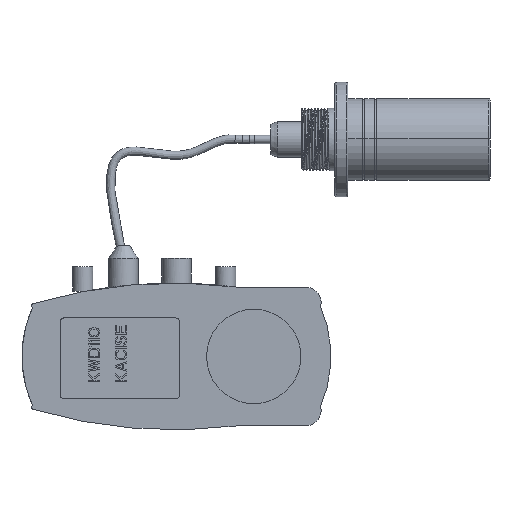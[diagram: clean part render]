
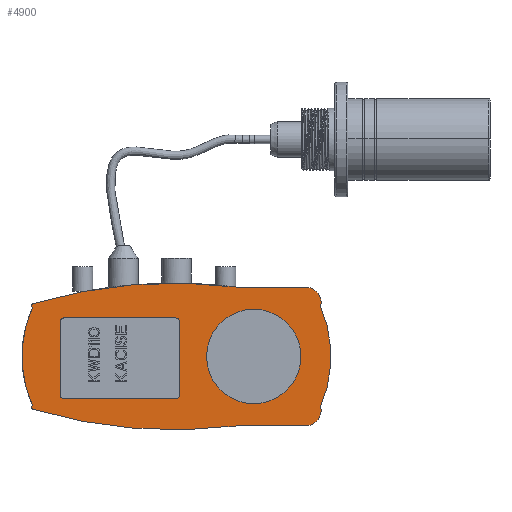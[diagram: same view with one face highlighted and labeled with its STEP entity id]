
A CAD part, left-side view. The second image highlights one B-rep face of the part: STEP entity #4900.
In plain terms, the highlighted planar face has unit normal (-1, 0, 0).
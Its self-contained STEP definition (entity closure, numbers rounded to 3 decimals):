
#1=CARTESIAN_POINT('',(0.,-0.721,0.));
#2=DIRECTION('',(1.,0.,0.));
#3=DIRECTION('',(0.,0.913,-0.407));
#4=AXIS2_PLACEMENT_3D('',#1,#2,#3);
#6=CARTESIAN_POINT('',(0.,65.897,31.112));
#7=DIRECTION('',(1.,0.,0.));
#8=DIRECTION('',(0.,0.571,-0.821));
#9=AXIS2_PLACEMENT_3D('',#6,#7,#8);
#11=CARTESIAN_POINT('',(0.,-20.032,-257.545));
#12=DIRECTION('',(1.,0.,0.));
#13=DIRECTION('',(0.,0.287,0.958));
#14=AXIS2_PLACEMENT_3D('',#11,#12,#13);
#16=DIRECTION('',(0.,-1.,0.));
#17=VECTOR('',#16,41.705);
#18=CARTESIAN_POINT('',(0.,-58.52,42.432));
#19=LINE('',#18,#17);
#20=CARTESIAN_POINT('',(0.,-100.224,32.618));
#21=DIRECTION('',(1.,0.,0.));
#22=DIRECTION('',(0.,0.,1.));
#23=AXIS2_PLACEMENT_3D('',#20,#21,#22);
#25=CARTESIAN_POINT('',(0.,-102.166,33.278));
#26=DIRECTION('',(1.,0.,0.));
#27=DIRECTION('',(0.,-0.947,0.322));
#28=AXIS2_PLACEMENT_3D('',#25,#26,#27);
#30=CARTESIAN_POINT('',(0.,-38.008,0.));
#31=DIRECTION('',(1.,0.,0.));
#32=DIRECTION('',(0.,-0.919,0.395));
#33=AXIS2_PLACEMENT_3D('',#30,#31,#32);
#35=CARTESIAN_POINT('',(0.,-102.166,-33.278));
#36=DIRECTION('',(1.,0.,0.));
#37=DIRECTION('',(0.,-0.947,0.322));
#38=AXIS2_PLACEMENT_3D('',#35,#36,#37);
#40=CARTESIAN_POINT('',(0.,-100.224,-32.618));
#41=DIRECTION('',(1.,0.,0.));
#42=DIRECTION('',(0.,-0.947,-0.322));
#43=AXIS2_PLACEMENT_3D('',#40,#41,#42);
#45=DIRECTION('',(0.,1.,0.));
#46=VECTOR('',#45,41.705);
#47=CARTESIAN_POINT('',(0.,-100.224,-42.432));
#48=LINE('',#47,#46);
#49=CARTESIAN_POINT('',(0.,-20.032,257.545));
#50=DIRECTION('',(1.,0.,0.));
#51=DIRECTION('',(0.,-0.127,-0.992));
#52=AXIS2_PLACEMENT_3D('',#49,#50,#51);
#54=CARTESIAN_POINT('',(0.,65.897,-31.112));
#55=DIRECTION('',(1.,0.,0.));
#56=DIRECTION('',(0.,0.571,-0.821));
#57=AXIS2_PLACEMENT_3D('',#54,#55,#56);
#59=CARTESIAN_POINT('',(0.,-68.716,0.));
#60=DIRECTION('',(-1.,0.,0.));
#61=DIRECTION('',(0.,0.,1.));
#62=AXIS2_PLACEMENT_3D('',#59,#60,#61);
#64=CARTESIAN_POINT('',(0.,-68.716,0.));
#65=DIRECTION('',(-1.,0.,0.));
#66=DIRECTION('',(0.,0.,-1.));
#67=AXIS2_PLACEMENT_3D('',#64,#65,#66);
#69=CARTESIAN_POINT('',(0.,47.47,-23.8));
#70=DIRECTION('',(-1.,0.,0.));
#71=DIRECTION('',(0.,1.,0.));
#72=AXIS2_PLACEMENT_3D('',#69,#70,#71);
#74=DIRECTION('',(0.,-1.,0.));
#75=VECTOR('',#74,68.591);
#76=CARTESIAN_POINT('',(0.,47.47,-25.8));
#77=LINE('',#76,#75);
#78=CARTESIAN_POINT('',(0.,-21.121,-23.8));
#79=DIRECTION('',(-1.,0.,0.));
#80=DIRECTION('',(0.,0.,-1.));
#81=AXIS2_PLACEMENT_3D('',#78,#79,#80);
#83=DIRECTION('',(0.,0.,1.));
#84=VECTOR('',#83,45.337);
#85=CARTESIAN_POINT('',(0.,-23.121,-23.8));
#86=LINE('',#85,#84);
#87=CARTESIAN_POINT('',(0.,-21.121,21.537));
#88=DIRECTION('',(-1.,0.,0.));
#89=DIRECTION('',(0.,-1.,0.));
#90=AXIS2_PLACEMENT_3D('',#87,#88,#89);
#92=DIRECTION('',(0.,1.,0.));
#93=VECTOR('',#92,68.591);
#94=CARTESIAN_POINT('',(0.,-21.121,23.537));
#95=LINE('',#94,#93);
#96=CARTESIAN_POINT('',(0.,47.47,21.537));
#97=DIRECTION('',(-1.,0.,0.));
#98=DIRECTION('',(0.,0.,1.));
#99=AXIS2_PLACEMENT_3D('',#96,#97,#98);
#101=DIRECTION('',(0.,0.,-1.));
#102=VECTOR('',#101,45.337);
#103=CARTESIAN_POINT('',(0.,49.47,21.537));
#104=LINE('',#103,#102);
#3734=CARTESIAN_POINT('',(0.,-58.52,-42.432));
#3735=CARTESIAN_POINT('',(0.,66.655,-32.201));
#3736=VERTEX_POINT('',#3734);
#3737=VERTEX_POINT('',#3735);
#3738=CARTESIAN_POINT('',(0.,66.655,32.201));
#3739=CARTESIAN_POINT('',(0.,-58.52,42.432));
#3740=VERTEX_POINT('',#3738);
#3741=VERTEX_POINT('',#3739);
#3742=CARTESIAN_POINT('',(0.,-100.224,42.432));
#3743=VERTEX_POINT('',#3742);
#3744=CARTESIAN_POINT('',(0.,-109.516,35.776));
#3745=VERTEX_POINT('',#3744);
#3746=CARTESIAN_POINT('',(0.,-109.516,30.78));
#3747=VERTEX_POINT('',#3746);
#3748=CARTESIAN_POINT('',(0.,-109.516,-30.78));
#3749=VERTEX_POINT('',#3748);
#3750=CARTESIAN_POINT('',(0.,-109.516,-35.776));
#3751=VERTEX_POINT('',#3750);
#3752=CARTESIAN_POINT('',(0.,-100.224,-42.432));
#3753=VERTEX_POINT('',#3752);
#3780=CARTESIAN_POINT('',(0.,66.655,-30.024));
#3782=VERTEX_POINT('',#3780);
#3788=CARTESIAN_POINT('',(0.,66.655,30.024));
#3789=VERTEX_POINT('',#3788);
#3810=CARTESIAN_POINT('',(0.,-68.716,28.869));
#3811=CARTESIAN_POINT('',(0.,-68.716,-28.869));
#3812=VERTEX_POINT('',#3810);
#3813=VERTEX_POINT('',#3811);
#3814=CARTESIAN_POINT('',(0.,49.47,-23.8));
#3815=CARTESIAN_POINT('',(0.,47.47,-25.8));
#3816=VERTEX_POINT('',#3814);
#3817=VERTEX_POINT('',#3815);
#3818=CARTESIAN_POINT('',(0.,-21.121,-25.8));
#3819=VERTEX_POINT('',#3818);
#3820=CARTESIAN_POINT('',(0.,-23.121,-23.8));
#3821=VERTEX_POINT('',#3820);
#3822=CARTESIAN_POINT('',(0.,-23.121,21.537));
#3823=VERTEX_POINT('',#3822);
#3824=CARTESIAN_POINT('',(0.,-21.121,23.537));
#3825=VERTEX_POINT('',#3824);
#3826=CARTESIAN_POINT('',(0.,47.47,23.537));
#3827=VERTEX_POINT('',#3826);
#3828=CARTESIAN_POINT('',(0.,49.47,21.537));
#3829=VERTEX_POINT('',#3828);
#4845=CARTESIAN_POINT('',(0.,0.,0.));
#4846=DIRECTION('',(1.,0.,0.));
#4847=DIRECTION('',(0.,0.,-1.));
#4848=AXIS2_PLACEMENT_3D('',#4845,#4846,#4847);
#4849=PLANE('',#4848);
#4851=ORIENTED_EDGE('',*,*,#4850,.T.);
#4853=ORIENTED_EDGE('',*,*,#4852,.T.);
#4855=ORIENTED_EDGE('',*,*,#4854,.T.);
#4857=ORIENTED_EDGE('',*,*,#4856,.T.);
#4859=ORIENTED_EDGE('',*,*,#4858,.T.);
#4861=ORIENTED_EDGE('',*,*,#4860,.T.);
#4863=ORIENTED_EDGE('',*,*,#4862,.T.);
#4865=ORIENTED_EDGE('',*,*,#4864,.T.);
#4867=ORIENTED_EDGE('',*,*,#4866,.T.);
#4869=ORIENTED_EDGE('',*,*,#4868,.T.);
#4871=ORIENTED_EDGE('',*,*,#4870,.T.);
#4873=ORIENTED_EDGE('',*,*,#4872,.T.);
#4874=EDGE_LOOP('',(#4851,#4853,#4855,#4857,#4859,#4861,#4863,#4865,#4867,#4869,
#4871,#4873));
#4875=FACE_OUTER_BOUND('',#4874,.F.);
#4877=ORIENTED_EDGE('',*,*,#4876,.T.);
#4879=ORIENTED_EDGE('',*,*,#4878,.T.);
#4880=EDGE_LOOP('',(#4877,#4879));
#4881=FACE_BOUND('',#4880,.F.);
#4883=ORIENTED_EDGE('',*,*,#4882,.T.);
#4885=ORIENTED_EDGE('',*,*,#4884,.T.);
#4887=ORIENTED_EDGE('',*,*,#4886,.T.);
#4889=ORIENTED_EDGE('',*,*,#4888,.T.);
#4891=ORIENTED_EDGE('',*,*,#4890,.T.);
#4893=ORIENTED_EDGE('',*,*,#4892,.T.);
#4895=ORIENTED_EDGE('',*,*,#4894,.T.);
#4897=ORIENTED_EDGE('',*,*,#4896,.T.);
#4898=EDGE_LOOP('',(#4883,#4885,#4887,#4889,#4891,#4893,#4895,#4897));
#4899=FACE_BOUND('',#4898,.F.);
#4900=ADVANCED_FACE('',(#4875,#4881,#4899),#4849,.F.);
#5=CIRCLE('',#4,73.763);
#10=CIRCLE('',#9,1.326);
#15=CIRCLE('',#14,302.436);
#24=CIRCLE('',#23,9.814);
#29=CIRCLE('',#28,7.763);
#34=CIRCLE('',#33,77.851);
#39=CIRCLE('',#38,7.763);
#44=CIRCLE('',#43,9.814);
#53=CIRCLE('',#52,302.436);
#58=CIRCLE('',#57,1.326);
#63=CIRCLE('',#62,28.869);
#68=CIRCLE('',#67,28.869);
#73=CIRCLE('',#72,2.);
#82=CIRCLE('',#81,2.);
#91=CIRCLE('',#90,2.);
#100=CIRCLE('',#99,2.);
#4850=EDGE_CURVE('',#3782,#3789,#5,.T.);
#4852=EDGE_CURVE('',#3789,#3740,#10,.T.);
#4854=EDGE_CURVE('',#3740,#3741,#15,.T.);
#4856=EDGE_CURVE('',#3741,#3743,#19,.T.);
#4858=EDGE_CURVE('',#3743,#3745,#24,.T.);
#4860=EDGE_CURVE('',#3745,#3747,#29,.T.);
#4862=EDGE_CURVE('',#3747,#3749,#34,.T.);
#4864=EDGE_CURVE('',#3749,#3751,#39,.T.);
#4866=EDGE_CURVE('',#3751,#3753,#44,.T.);
#4868=EDGE_CURVE('',#3753,#3736,#48,.T.);
#4870=EDGE_CURVE('',#3736,#3737,#53,.T.);
#4872=EDGE_CURVE('',#3737,#3782,#58,.T.);
#4876=EDGE_CURVE('',#3812,#3813,#63,.T.);
#4878=EDGE_CURVE('',#3813,#3812,#68,.T.);
#4882=EDGE_CURVE('',#3816,#3817,#73,.T.);
#4884=EDGE_CURVE('',#3817,#3819,#77,.T.);
#4886=EDGE_CURVE('',#3819,#3821,#82,.T.);
#4888=EDGE_CURVE('',#3821,#3823,#86,.T.);
#4890=EDGE_CURVE('',#3823,#3825,#91,.T.);
#4892=EDGE_CURVE('',#3825,#3827,#95,.T.);
#4894=EDGE_CURVE('',#3827,#3829,#100,.T.);
#4896=EDGE_CURVE('',#3829,#3816,#104,.T.);
